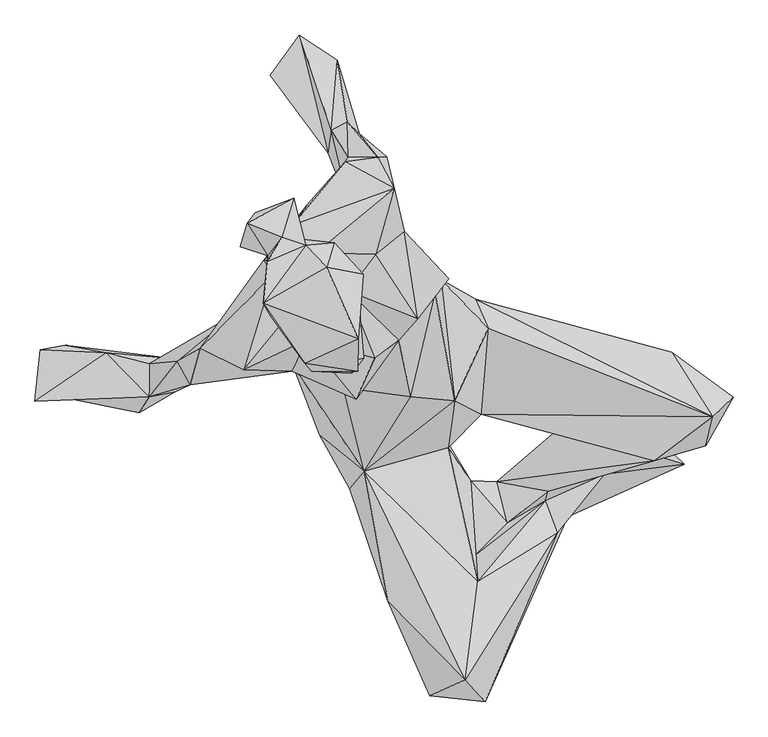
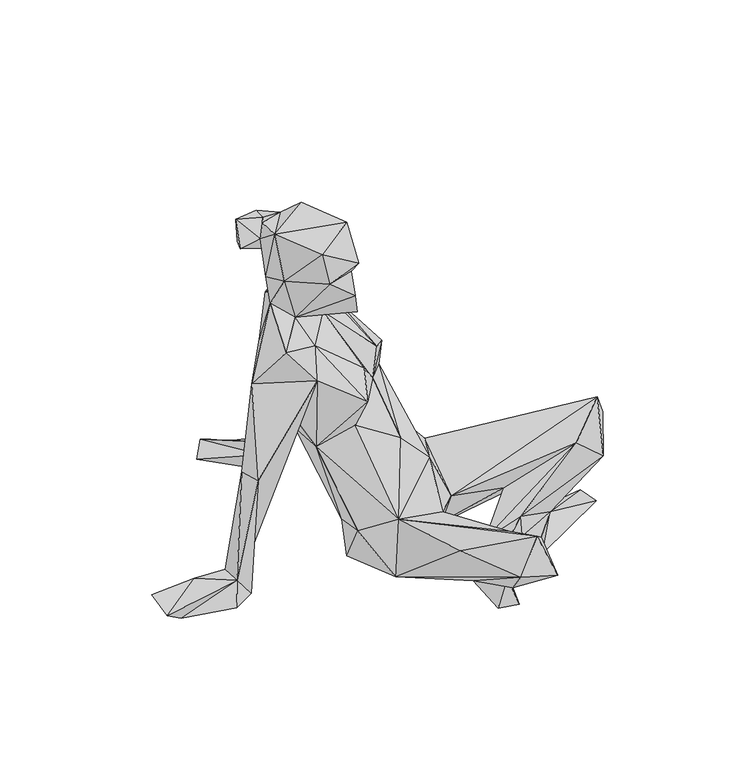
"""IFC4 building model written with IfcOpenShell, lengths in millimetres: geographic element geometry, Enscape AssetDefinition - Juliette, Sitting : Enscape AssetDefinition - Juliette, Sitting."""

from ifc_helpers import new_model, si_unit, origin, place, context, project, spatial, faceted_brep, source, transform, mapped, element, save


def geographic_element_986b041f(model_context):
    return source(origin(), model_context, "Body", "Brep", [
        faceted_brep([(-199.7576505, 114.3364012, 288.0610526), (-45.7755812, 139.3107325, 141.8561339), (-148.5550106, 10.4621677, 103.2332554), (-158.133924, 165.0740504, 283.0542326), (25.3678858, 162.8361642, 250.4713535), (-54.7844656, 237.0753288, 309.6308112), (76.9735798, 133.5748881, 134.9226981), (0.5268228, 144.277364, 21.4853864), (16.1354039, 141.8363154, 359.8278165), (45.7044803, -18.7078267, 209.7530961), (95.9750563, 90.3656259, 173.5550612), (370.7505167, 54.2156026, 168.486923), (432.623148, -42.4358882, 241.3407862), (85.3652284, -39.0072316, 110.0522727), (422.0508933, -86.1440003, 123.2408732), (462.8228247, -13.4139685, 175.2350181), (344.8264897, -108.3731204, 195.6197917), (324.3051171, -24.1033584, 79.438962), (121.4914545, 65.2667657, 5.8994913), (185.3098273, -153.9963484, 93.8268825), (269.7676122, -128.9187521, 59.9507019), (196.5594143, -64.4670278, 107.554324), (108.7819934, -139.9126649, 52.8102107), (124.0629181, -201.5873939, 74.8641118), (181.0504496, -168.1804061, 53.672336), (74.170813, -251.7700195, 81.930615), (69.307223, -138.4695619, 77.6931792), (25.6457608, -66.6022226, 26.827421), (30.958062, -223.6412764, 26.2505058), (79.6345845, -289.2211676, 174.4794399), (35.4671739, -88.7502432, 118.2361171), (-90.1021361, -124.2448092, 164.2248482), (198.970437, -215.9909755, 73.2556805), (61.2180792, -436.5015924, 257.519424), (46.66619, -22.8478611, 32.6619856), (212.4537975, -89.1166329, 38.5272391), (357.0677042, -104.1674763, 70.7203597), (389.3638253, -113.903299, 37.390016), (214.6168947, -192.4547553, 12.0067988), (91.1046416, -469.5514739, 168.7237918), (-54.9210012, -318.4272349, 189.3500537), (8.2867788, -460.624367, 187.1138662), (28.3621941, -391.805768, 111.3069504), (-112.0203361, -150.520727, 42.4878523), (-88.9935046, -49.8405136, 7.739359), (-156.6166282, -70.0959489, 125.5361885), (-159.7599089, -29.5871291, 38.742017), (-196.4949518, 33.236701, 289.2805934), (-241.2252277, 192.3422366, 480.6572497), (-249.4210899, 58.4186763, 388.1765306), (-287.2846425, 109.4831824, 410.9312594), (-176.5215546, 274.6914923, 461.1015022), (-112.200439, 270.9704936, 358.4017456), (-196.387738, 245.2723533, 554.1307926), (-118.8785657, 339.7480547, 501.2131333), (-45.2416912, 299.8648584, 568.2691336), (-163.3125693, 203.7014067, 594.4636464), (-202.7813047, 188.3354187, 589.7986293), (-69.6348324, 346.7469215, 348.4792709), (-113.8621345, 346.6647863, 273.2571959), (-73.0715767, 201.2194246, 533.7129235), (-30.3456746, 235.388726, 481.8243682), (-97.7337956, 382.1047544, 4.8064287), (-115.5894399, 399.5862901, 64.7051632), (-56.6441007, 347.3711014, 228.7933826), (-139.6846622, 387.2901499, 67.8499267), (-130.921483, 492.1840131, 4.8064287), (-231.065914, 469.9026644, 4.8064287), (-115.4979616, 353.7378907, 4.8064287), (-66.1752746, 261.2825036, 367.6356375), (-144.469589, 352.5477946, 57.7972755), (-187.7137423, 530.00772, 4.8064287), (36.2733677, 164.6772921, 397.7843821), (-9.9115716, 104.7650874, 435.6450737), (-38.8409793, 72.4337474, 385.1036429), (-20.5115434, -12.2312522, 277.877599), (-121.4992031, 0.7147596, 338.0956352), (-102.4385095, -16.5004581, 400.4142582), (-198.3695328, 25.5751964, 461.6638422), (-175.9067178, 72.7179274, 514.4046545), (-74.4151101, 45.0397208, 438.0410314), (-114.971973, 146.2170929, 534.25771), (-271.2042928, 27.8624501, 557.6931834), (-201.9070387, 112.0901257, 572.1917748), (-227.3944914, 170.5311388, 581.1593533), (-336.2990618, 60.1089969, 481.6922247), (-230.195716, 108.4977239, 675.3297448), (-224.7720063, 193.7921047, 632.9596639), (-168.8253134, 25.9534474, 695.4957843), (-179.6909422, 37.9132107, 767.310977), (-241.996944, 127.3184419, 786.4144444), (-109.0619639, 23.0631456, 647.7492452), (-107.6969355, 41.8393537, 697.9717016), (-99.696368, 25.9353407, 725.5529761), (-99.2517099, 74.6710673, 799.0458608), (-91.283448, 45.3986153, 587.2215033), (-101.1880189, 163.2463038, 670.5156565), (-123.842299, 120.2438176, 589.1301036), (-135.2092028, 218.0869281, 695.4778433), (-91.4450884, 171.3393778, 722.2443819), (-204.3567449, 225.9638309, 677.8099537), (-234.9098325, 198.7224817, 729.4739485), (-235.3461385, 190.1446283, 775.9051919), (-213.7169838, 226.5785933, 759.1074109), (-275.9256661, 212.2036368, 710.6579542), (-265.87376, 247.7183342, 759.9313855), (-146.5669125, 181.8306446, 800.7803559), (-178.1319231, 214.4174576, 766.9793367), (-195.7493573, 284.7745121, 735.9699607), (-253.7772954, 263.0725801, 690.297544), (-412.3051167, 37.0601602, 51.9870967), (-370.4915345, 40.5882373, 282.4324667), (-375.0234246, 44.205118, 4.8064287), (-351.1514664, 5.514991, 274.9722004), (-412.5371873, -12.5423456, 55.1309362), (-476.9425094, 53.7170731, 42.1562307), (-584.0455294, -19.3767622, 28.790338), (-546.7638969, -12.2317662, 4.8064287), (-427.3656905, -36.7533043, 4.8064287), (-375.2555549, -5.3973515, 4.8064287), (-538.8405323, 65.0909543, 4.8064287), (-576.1222243, 57.9459891, 32.1651176), (116.796568, -203.7549764, 22.8969902), (37.6443304, -316.7300224, 10.1677086), (66.948913, -301.7630577, 69.0090433), (181.0504496, -168.1804061, 53.672336), (358.2078516, -83.4989026, 7.1213222), (115.1733547, -217.4737453, 65.3360188), (72.0969662, -343.6229825, 24.7889776)], [[[0, 1, 2]], [[3, 1, 0]], [[4, 1, 5]], [[6, 7, 1]], [[7, 2, 1]], [[3, 5, 1]], [[4, 6, 1]], [[5, 8, 4]], [[9, 4, 8]], [[9, 10, 4]], [[10, 6, 4]], [[11, 7, 6]], [[6, 12, 11]], [[10, 12, 6]], [[13, 12, 10]], [[13, 10, 9]], [[12, 14, 15]], [[12, 13, 16]], [[14, 12, 16]], [[12, 15, 11]], [[17, 18, 11]], [[7, 11, 18]], [[15, 17, 11]], [[15, 14, 17]], [[14, 16, 19]], [[20, 14, 19]], [[20, 17, 14]], [[13, 21, 16]], [[22, 19, 16]], [[21, 22, 16]], [[23, 19, 22]], [[20, 19, 24]], [[23, 24, 19]], [[25, 23, 26]], [[22, 26, 23]], [[25, 24, 23]], [[27, 26, 28]], [[29, 26, 30]], [[26, 29, 25]], [[26, 27, 30]], [[28, 26, 22]], [[24, 25, 29]], [[30, 31, 29]], [[29, 32, 24]], [[29, 33, 32]], [[33, 29, 31]], [[30, 27, 13]], [[9, 31, 30]], [[9, 30, 13]], [[34, 21, 13]], [[27, 34, 13]], [[17, 21, 34]], [[17, 35, 21]], [[35, 22, 21]], [[17, 34, 18]], [[7, 18, 34]], [[34, 27, 7]], [[20, 35, 17]], [[32, 20, 24]], [[35, 20, 36]], [[37, 20, 38]], [[20, 32, 38]], [[20, 37, 36]], [[39, 32, 33]], [[39, 38, 32]], [[40, 33, 31]], [[33, 41, 39]], [[41, 33, 40]], [[38, 39, 42]], [[39, 41, 42]], [[28, 41, 43]], [[42, 41, 28]], [[40, 43, 41]], [[40, 31, 43]], [[28, 43, 44]], [[45, 46, 43]], [[31, 45, 43]], [[43, 46, 44]], [[7, 27, 44]], [[27, 28, 44]], [[7, 44, 46]], [[7, 46, 2]], [[46, 45, 2]], [[45, 47, 2]], [[45, 31, 47]], [[0, 2, 47]], [[3, 0, 48]], [[0, 47, 49]], [[50, 48, 0]], [[49, 50, 0]], [[48, 51, 3]], [[3, 51, 52]], [[3, 52, 5]], [[48, 53, 51]], [[53, 54, 51]], [[54, 52, 51]], [[55, 54, 53]], [[56, 55, 53]], [[57, 53, 48]], [[53, 57, 56]], [[54, 55, 58]], [[58, 59, 54]], [[52, 54, 59]], [[56, 60, 55]], [[55, 60, 61]], [[61, 58, 55]], [[58, 62, 63]], [[63, 59, 58]], [[58, 61, 64]], [[62, 58, 64]], [[65, 52, 59]], [[59, 63, 65]], [[66, 63, 62]], [[66, 65, 63]], [[62, 67, 66]], [[64, 68, 62]], [[67, 62, 68]], [[69, 64, 61]], [[68, 64, 69]], [[69, 70, 68]], [[67, 68, 70]], [[70, 71, 67]], [[66, 67, 71]], [[65, 66, 71]], [[71, 70, 65]], [[52, 65, 70]], [[70, 69, 52]], [[69, 5, 52]], [[69, 61, 5]], [[5, 61, 72]], [[5, 72, 8]], [[61, 73, 72]], [[73, 61, 60]], [[74, 72, 73]], [[74, 8, 72]], [[75, 9, 8]], [[8, 74, 75]], [[31, 9, 75]], [[76, 31, 75]], [[75, 74, 76]], [[47, 31, 76]], [[77, 47, 76]], [[77, 76, 74]], [[49, 47, 78]], [[78, 47, 77]], [[79, 77, 80]], [[79, 78, 77]], [[74, 80, 77]], [[81, 79, 80]], [[81, 80, 74]], [[78, 79, 82]], [[83, 79, 81]], [[83, 82, 79]], [[82, 84, 85]], [[85, 78, 82]], [[82, 83, 84]], [[83, 86, 84]], [[48, 85, 84]], [[86, 87, 84]], [[48, 84, 57]], [[57, 84, 87]], [[83, 88, 86]], [[86, 88, 89]], [[89, 90, 86]], [[87, 86, 90]], [[88, 83, 91]], [[88, 91, 92]], [[93, 89, 88]], [[92, 93, 88]], [[94, 90, 89]], [[94, 89, 93]], [[92, 94, 93]], [[92, 95, 96]], [[96, 94, 92]], [[91, 95, 92]], [[95, 91, 83]], [[83, 97, 95]], [[97, 96, 95]], [[83, 81, 97]], [[96, 97, 81]], [[81, 56, 96]], [[96, 56, 98]], [[96, 99, 94]], [[98, 99, 96]], [[56, 81, 60]], [[81, 74, 73]], [[81, 73, 60]], [[98, 56, 87]], [[57, 87, 56]], [[98, 87, 100]], [[87, 101, 100]], [[90, 101, 87]], [[102, 103, 101]], [[90, 102, 101]], [[104, 101, 105]], [[104, 100, 101]], [[103, 105, 101]], [[94, 106, 90]], [[107, 102, 90]], [[107, 90, 106]], [[107, 103, 102]], [[103, 108, 105]], [[103, 107, 108]], [[109, 105, 108]], [[104, 105, 109]], [[104, 109, 100]], [[108, 100, 109]], [[107, 100, 108]], [[98, 100, 107]], [[98, 107, 106]], [[106, 94, 99]], [[106, 99, 98]], [[85, 48, 50]], [[110, 111, 50]], [[50, 112, 110]], [[112, 50, 49]], [[85, 50, 111]], [[78, 85, 113]], [[85, 111, 113]], [[111, 110, 114]], [[114, 113, 111]], [[114, 110, 115]], [[110, 112, 115]], [[115, 116, 114]], [[114, 117, 118]], [[113, 114, 119]], [[114, 118, 119]], [[117, 114, 116]], [[113, 112, 78]], [[112, 113, 119]], [[112, 49, 78]], [[117, 112, 118]], [[120, 115, 112]], [[112, 117, 120]], [[118, 112, 119]], [[116, 115, 121]], [[115, 120, 121]], [[121, 117, 116]], [[117, 121, 120]], [[22, 122, 28]], [[28, 122, 123]], [[28, 123, 124]], [[28, 124, 42]], [[22, 35, 125]], [[22, 125, 122]], [[126, 38, 35]], [[35, 38, 125]], [[35, 36, 126]], [[125, 127, 122]], [[38, 127, 125]], [[38, 124, 127]], [[126, 37, 38]], [[38, 42, 124]], [[37, 126, 36]], [[124, 128, 122]], [[127, 124, 122]], [[124, 123, 128]], [[122, 128, 123]]]),
    ])


if __name__ == "__main__":
    model = new_model("IFC4")
    model_context = context("Model", 3, world=origin())
    ifc_project = project(units=[si_unit("LENGTHUNIT", "METRE", prefix="MILLI")], contexts=[model_context])
    site = spatial("IfcSite", under=ifc_project)
    building = spatial("IfcBuilding", under=site)
    placement = place(None, origin())
    geographic_element_shape = geographic_element_986b041f(model_context)
    element("IfcGeographicElement", 1, ObjectType="Enscape AssetDefinition - Juliette, Sitting : Enscape AssetDefinition - Juliette, Sitting", at=placement, inside=building, context=model_context, shape_type="MappedRepresentation", body=[
        mapped(geographic_element_shape, transform((0.0, 0.0, 0.0), x_axis=(1.0, 0.0, 0.0), y_axis=(0.0, 1.0, 0.0), z_axis=(0.0, 0.0, 1.0))),
    ])
    save(model, "model.ifc")
